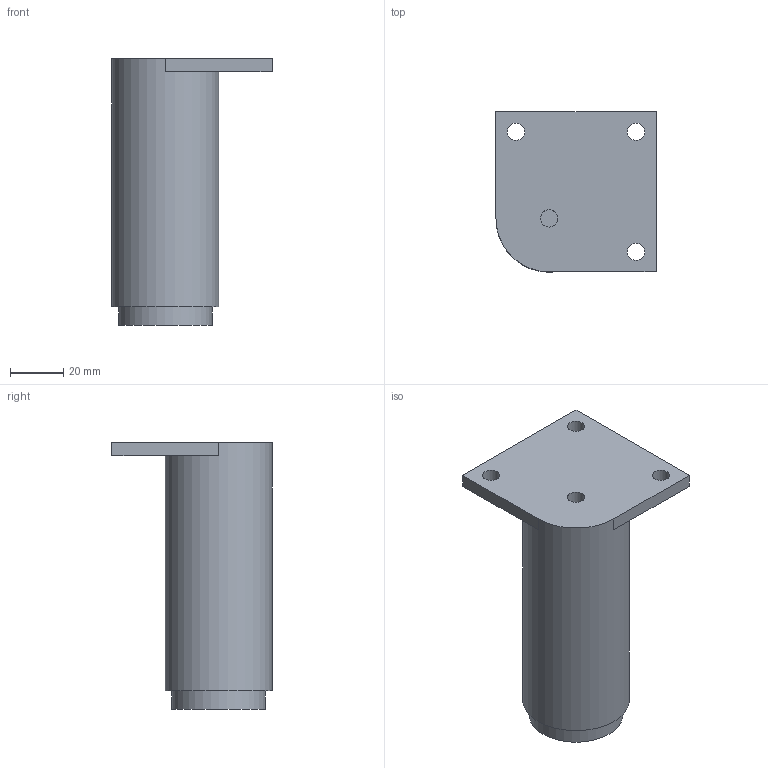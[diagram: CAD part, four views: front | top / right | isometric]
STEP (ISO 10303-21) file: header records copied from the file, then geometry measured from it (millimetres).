
FILE_DESCRIPTION( ( 'STEP AP214' ), '1' );
FILE_NAME( 'D:/Yug/2021/Desk_and_office_organisation/QC/9119552.stp', '2021-01-06T05:07:29', ( '' ), ( '' ), ' ', 'PARTsolutions', ' ' );
FILE_SCHEMA( ( 'AUTOMOTIVE_DESIGN { 1 0 10303 214 1 1 1 1 }' ) );
Length unit declared in the file: millimetre
Products named in the file (1): _9119552
Bounding box: 60 x 60 x 100 mm (x, y, z)
Volume: 134230.1 mm3; surface area: 20222.8 mm2
Topology: 1 solids, 1 shells, 15 faces, 33 edges, 22 vertices
Faces by surface type: plane 9, cylinder 6
Full cylindrical faces by diameter (mm): 6.48 x4, 35 x1, 40 x1
Entity records: 529 total; most frequent: DIRECTION 71, CARTESIAN_POINT 63, ORIENTED_EDGE 52, AXIS2_PLACEMENT_3D 29, EDGE_LOOP 29, EDGE_CURVE 26, FACE_OUTER_BOUND 21, VERTEX_POINT 21
